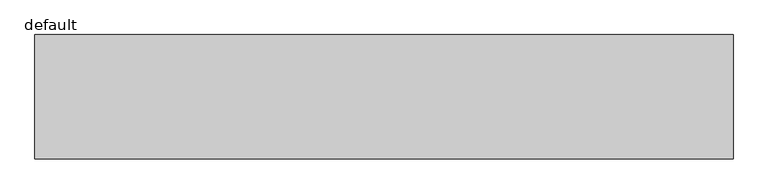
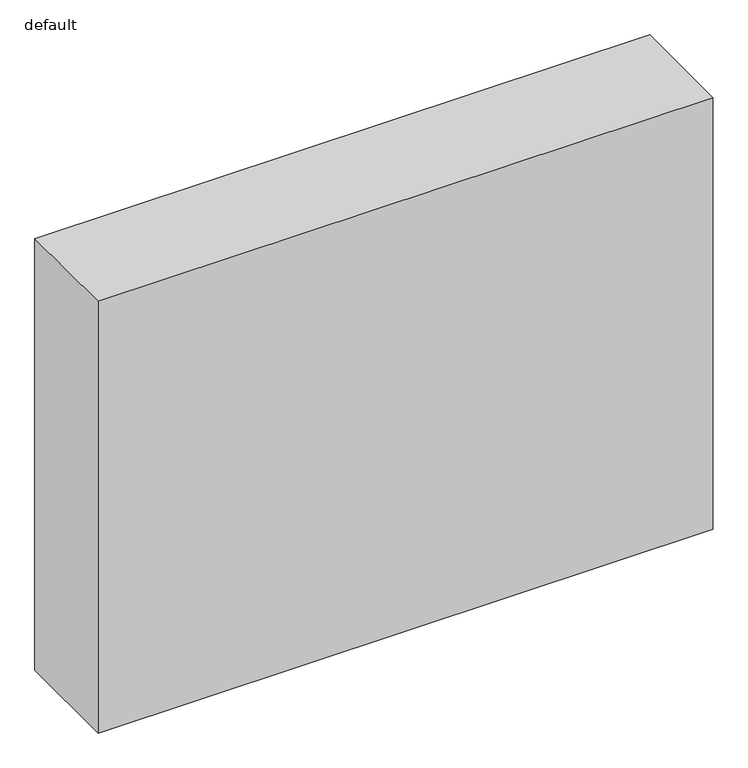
"""IFC4 building model written with IfcOpenShell, lengths in millimetres: furniture geometry, Fu_шкаф встроенный_LEG : default."""

from ifc_helpers import new_model, si_unit, origin, origin_with_axes, place, context, project, spatial, polyline, outline, extrude, source, transform, mapped, element, save


def default_9e8bff27(model_context):
    return source(origin(), model_context, "Body", "SweptSolid", [
        extrude(outline(polyline([(3370.0, 0.0), (0.0, 0.0), (0.0, 600.0), (3370.0, 600.0), (3370.0, 0.0)])), origin_with_axes(), (0.0, 0.0, 1.0), 2500.0),
    ])


if __name__ == "__main__":
    model = new_model("IFC4")
    model_context = context("Model", 3, world=origin())
    ifc_project = project(units=[si_unit("LENGTHUNIT", "METRE", prefix="MILLI")], contexts=[model_context])
    site = spatial("IfcSite", under=ifc_project)
    building = spatial("IfcBuilding", under=site)
    placement = place(None, origin())
    default_shape = default_9e8bff27(model_context)
    element("IfcFurniture", 1, ObjectType="Fu_шкаф встроенный_LEG : default", at=placement, inside=building, context=model_context, shape_type="MappedRepresentation", body=[
        mapped(default_shape, transform((0.0, 0.0, 0.0), x_axis=(1.0, 0.0, 0.0), y_axis=(0.0, 1.0, 0.0), z_axis=(0.0, 0.0, 1.0))),
    ])
    save(model, "model.ifc")
